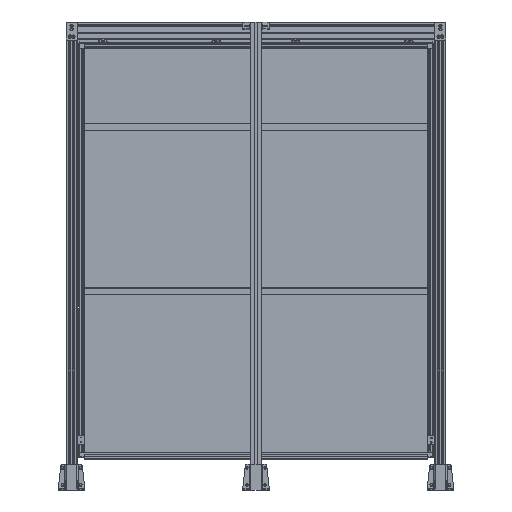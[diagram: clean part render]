
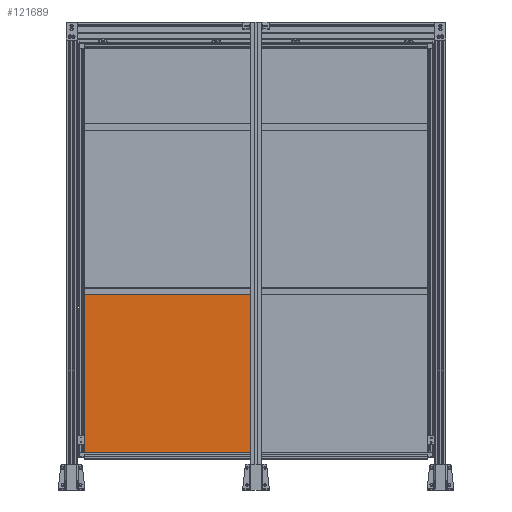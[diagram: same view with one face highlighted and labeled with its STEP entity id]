
A CAD part, front view. The second image highlights one B-rep face of the part: STEP entity #121689.
In plain terms, the highlighted planar face has unit normal (0, -1, 0).
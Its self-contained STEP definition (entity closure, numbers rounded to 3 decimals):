
#10123=FACE_OUTER_BOUND('',#17222,.T.);
#17222=EDGE_LOOP('',(#80144,#80145,#80146,#80147));
#25039=LINE('',#179864,#37267);
#25043=LINE('',#179871,#37271);
#25046=LINE('',#179877,#37274);
#25048=LINE('',#179880,#37276);
#37267=VECTOR('',#141798,10.);
#37271=VECTOR('',#141804,10.);
#37274=VECTOR('',#141809,10.);
#37276=VECTOR('',#141813,10.);
#49487=VERTEX_POINT('',#179861);
#49488=VERTEX_POINT('',#179863);
#49490=VERTEX_POINT('',#179869);
#49492=VERTEX_POINT('',#179875);
#61415=EDGE_CURVE('',#49488,#49487,#25039,.T.);
#61419=EDGE_CURVE('',#49487,#49490,#25043,.T.);
#61422=EDGE_CURVE('',#49490,#49492,#25046,.T.);
#61424=EDGE_CURVE('',#49492,#49488,#25048,.T.);
#80144=ORIENTED_EDGE('',*,*,#61424,.T.);
#80145=ORIENTED_EDGE('',*,*,#61415,.T.);
#80146=ORIENTED_EDGE('',*,*,#61419,.T.);
#80147=ORIENTED_EDGE('',*,*,#61422,.T.);
#117467=PLANE('',#128846);
#121689=ADVANCED_FACE('',(#10123),#117467,.F.);
#128846=AXIS2_PLACEMENT_3D('',#179882,#141816,#141817);
#141798=DIRECTION('',(-1.,0.,0.));
#141804=DIRECTION('',(0.,0.,-1.));
#141809=DIRECTION('',(1.,0.,0.));
#141813=DIRECTION('',(0.,0.,1.));
#141816=DIRECTION('center_axis',(0.,1.,0.));
#141817=DIRECTION('ref_axis',(0.,0.,
-1.));
#179861=CARTESIAN_POINT('',(-1967.401,117.806,44.));
#179863=CARTESIAN_POINT('',(-1012.401,117.806,44.));
#179864=CARTESIAN_POINT('',(-1012.401,117.806,44.));
#179869=CARTESIAN_POINT('',(-1967.401,117.806,-831.));
#179871=CARTESIAN_POINT('',(-1967.401,117.806,44.));
#179875=CARTESIAN_POINT('',(-1012.401,117.806,-831.));
#179877=CARTESIAN_POINT('',(-1967.401,117.806,-831.));
#179880=CARTESIAN_POINT('',(-1012.401,117.806,-831.));
#179882=CARTESIAN_POINT('Origin',(-1489.901,117.806,-393.5));
